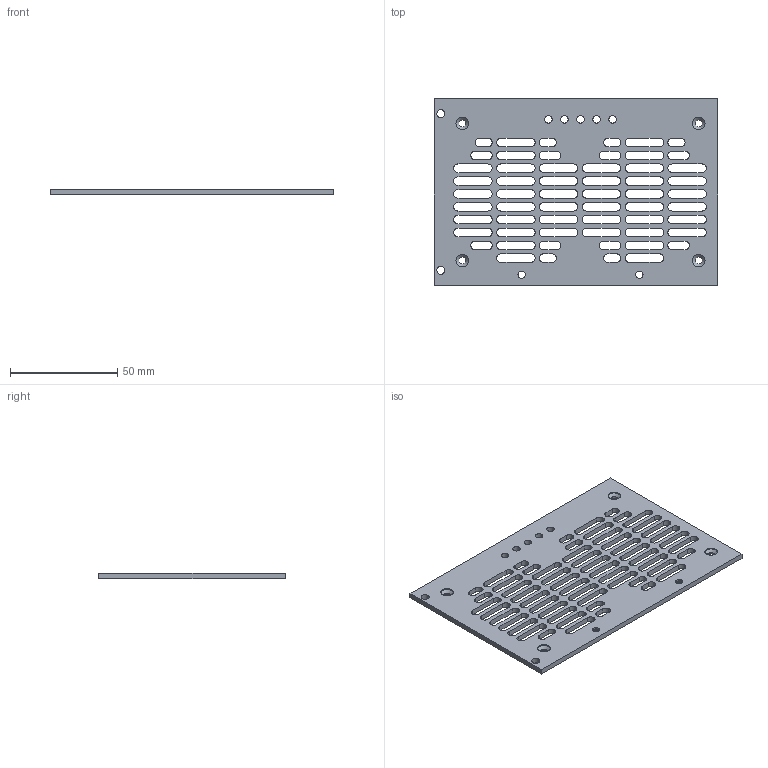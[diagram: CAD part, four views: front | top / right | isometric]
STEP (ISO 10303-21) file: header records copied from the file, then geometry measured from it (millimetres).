
FILE_DESCRIPTION(/* description */ ('Front Plate 3U','CAx-IF Rec.Pracs.---Representation and Presentation of Product Manufacturing Information (PMI)---4.0---2014-10-13'),/* implementation_level */ '2;1');
FILE_NAME(/* name */ 'E:\CAMTEC_2020_Pack and Go\Subrack_3U\2021057002CA.stp',/* time_stamp */ '2020-09-21T17:50:54+02:00',/* author */ ('rryba'),/* organization */ (''),/* preprocessor_version */ 'ST-DEVELOPER v18.1',/* originating_system */ 'Autodesk Inventor 2021',/* authorisation */ '');
FILE_SCHEMA (('AP242_MANAGED_MODEL_BASED_3D_ENGINEERING_MIM_LF { 1 0 10303 442 1 1 4 }'));
Length unit declared in the file: millimetre
Products named in the file (1): 2021057002CA
Bounding box: 132.2 x 87 x 2.5 mm (x, y, z)
Volume: 19621.1 mm3; surface area: 22494.9 mm2
Topology: 1 solids, 1 shells, 263 faces, 1018 edges, 993 vertices
Faces by surface type: cylinder 135, plane 122, cone 6
Full cylindrical faces by diameter (mm): 3.4 x6, 3.5 x5, 3.8 x2, 5.9 x6
Entity records: 10751 total; most frequent: CARTESIAN_POINT 2146, DIRECTION 1823, ORIENTED_EDGE 1546, EDGE_CURVE 773, AXIS2_PLACEMENT_3D 661, VERTEX_POINT 512, LINE 501, VECTOR 501
